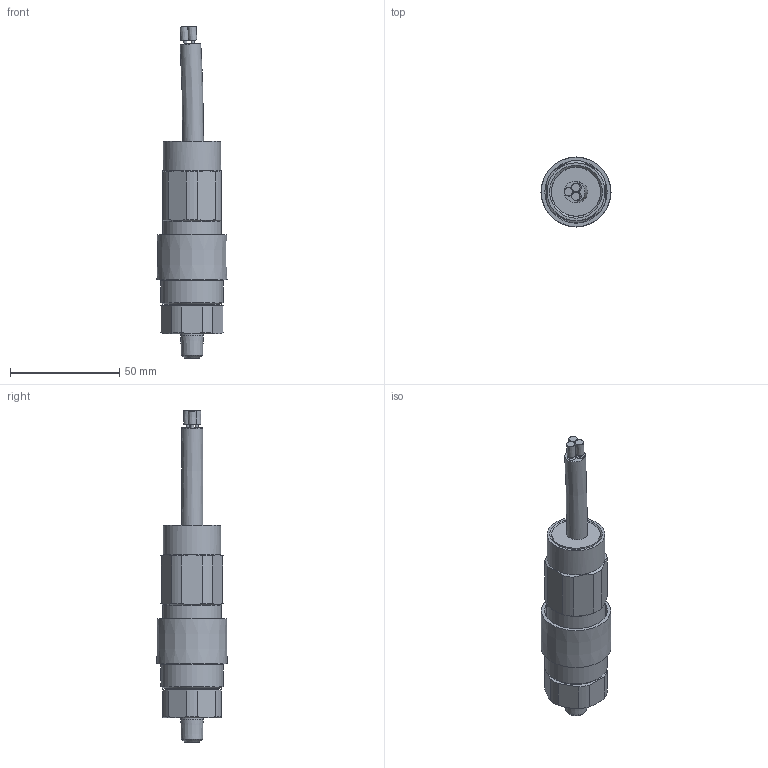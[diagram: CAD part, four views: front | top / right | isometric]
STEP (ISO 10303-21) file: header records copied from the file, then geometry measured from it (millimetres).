
FILE_DESCRIPTION (( 'STEP AP214' ), '1' );
FILE_NAME ('10-E10_E12.STEP', '2025-02-28T19:59:20', ( '' ), ( '' ), 'SwSTEP 2.0', 'SolidWorks 2023', '' );
FILE_SCHEMA (( 'AUTOMOTIVE_DESIGN' ));
Length unit declared in the file: inch
Products named in the file (1): 10-E10_E12
Bounding box: 32.11 x 32.11 x 152.02 mm (x, y, z)
Surface area: 16575.4 mm2 (no closed solid volume)
Topology: 0 solids, 18 shells, 82 faces, 179 edges, 116 vertices
Faces by surface type: plane 31, cylinder 20, cone 18, bspline 12, torus 1
Full cylindrical faces by diameter (mm): 3.175 x1, 3.556 x1, 10.287 x1, 22.352 x1, 26.467 x1, 26.873 x2, 28.575 x1
Entity records: 2508 total; most frequent: CARTESIAN_POINT 873, DIRECTION 348, ORIENTED_EDGE 260, AXIS2_PLACEMENT_3D 159, EDGE_CURVE 143, EDGE_LOOP 126, VERTEX_POINT 113, FACE_OUTER_BOUND 103
